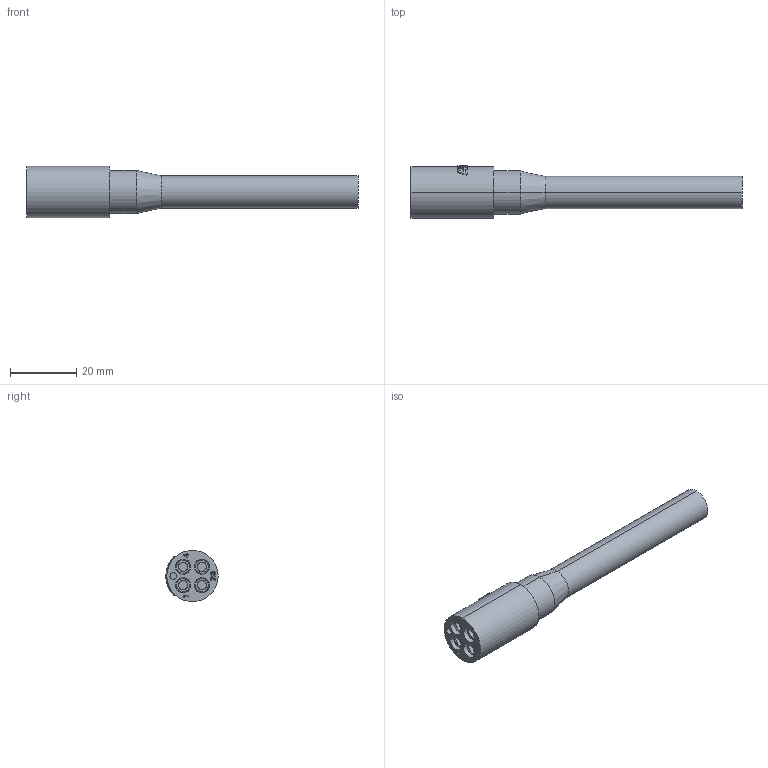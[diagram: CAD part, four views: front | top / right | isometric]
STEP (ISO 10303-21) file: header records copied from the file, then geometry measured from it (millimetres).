
FILE_DESCRIPTION((''),'2;1');
FILE_NAME('DT-HCM-G4BFF-RLA60_ASM','2022-10-19T',('L180042'),(''),'PRO/ENGINEER BY PARAMETRIC TECHNOLOGY CORPORATION, 2017170','PRO/ENGINEER BY PARAMETRIC TECHNOLOGY CORPORATION, 2017170','');
FILE_SCHEMA(('CONFIG_CONTROL_DESIGN'));
Length unit declared in the file: millimetre
Products named in the file (6): MLD00013732_FC4P; DT-FEMALE_PIN_B1; DT-FEMALE_PIN_B2; DT-FEMALE_PIN_B_ASM; MLD00013732_FC4P_ASM; DT-HCM-G4BFF-RLA60_ASM
Assembly tree (8 placements, depth 4):
  DT-HCM-G4BFF-RLA60_ASM
    MLD00013732_FC4P_ASM
      MLD00013732_FC4P
      DT-FEMALE_PIN_B_ASM  x4
        DT-FEMALE_PIN_B1
        DT-FEMALE_PIN_B2
Bounding box: 100.3 x 15.8 x 15.5 mm (x, y, z)
Volume: 10377.9 mm3; surface area: 7343.8 mm2
Topology: 9 solids, 9 shells, 432 faces, 1090 edges, 696 vertices
Faces by surface type: plane 149, cylinder 117, torus 100, extrusion 56, cone 10
Entity records: 13961 total; most frequent: CARTESIAN_POINT 3862, ORIENTED_EDGE 1616, DIRECTION 1453, PRESENTATION_STYLE_ASSIGNMENT 811, STYLED_ITEM 811, CURVE_STYLE 808, EDGE_CURVE 808, AXIS2_PLACEMENT_3D 561
